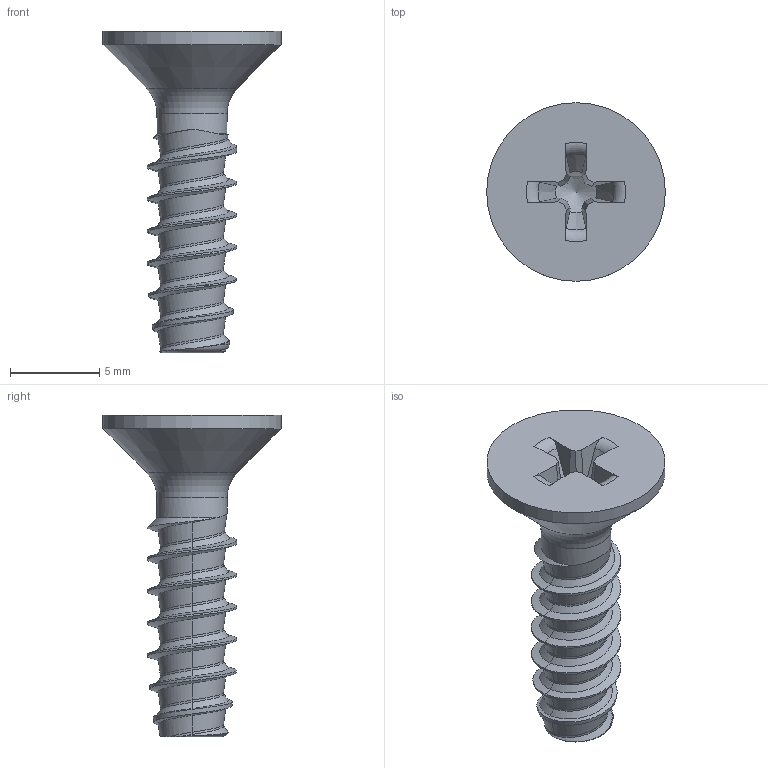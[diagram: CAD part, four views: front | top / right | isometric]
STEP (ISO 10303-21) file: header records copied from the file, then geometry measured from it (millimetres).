
FILE_DESCRIPTION(/* description */ (''),/* implementation_level */ '2;1');
FILE_NAME(/* name */ 'KN6041-STSplus-50x18-H2.step',/* time_stamp */ '2017-10-12T12:46:26+02:00',/* author */ (''),/* organization */ (''),/* preprocessor_version */ 'ST-DEVELOPER v16',/* originating_system */ 'SIEMENS PLM Software NX 10.0',/* authorisation */ '');
FILE_SCHEMA (('AUTOMOTIVE_DESIGN { 1 0 10303 214 3 1 1 1 }'));
Length unit declared in the file: millimetre
Products named in the file (1): KN6041-STSplus-50x18-H2
Bounding box: 10 x 10 x 18 mm (x, y, z)
Volume: 338.4 mm3; surface area: 478.2 mm2
Topology: 1 solids, 1 shells, 74 faces, 187 edges, 115 vertices
Faces by surface type: bspline 39, plane 18, cone 8, torus 6, cylinder 3
Full cylindrical faces by diameter (mm): 3.92 x1, 10 x1
Entity records: 4256 total; most frequent: CARTESIAN_POINT 2808, ORIENTED_EDGE 352, EDGE_CURVE 176, DIRECTION 176, VERTEX_POINT 111, B_SPLINE_CURVE_WITH_KNOTS 93, EDGE_LOOP 80, ADVANCED_FACE 74
